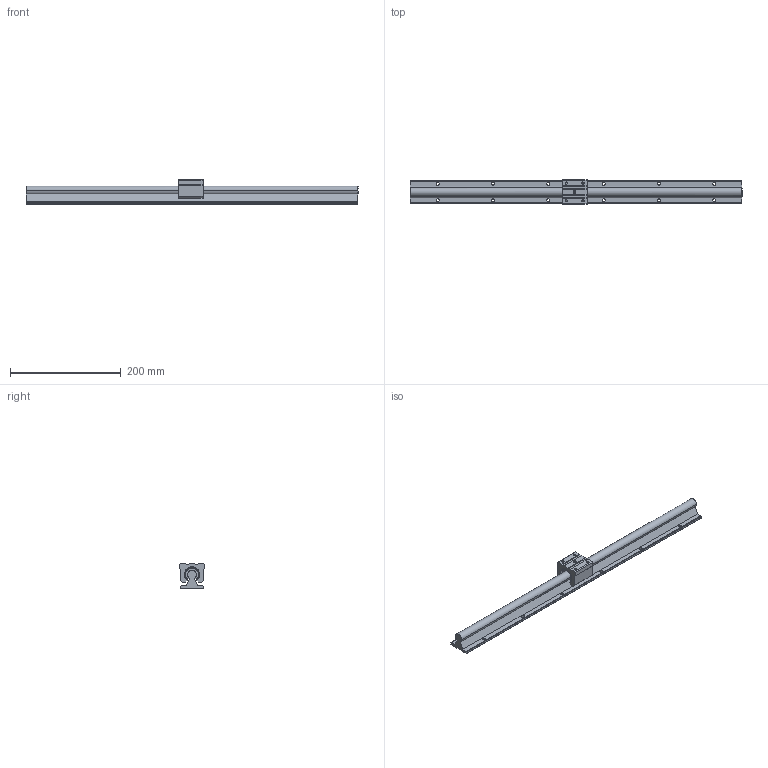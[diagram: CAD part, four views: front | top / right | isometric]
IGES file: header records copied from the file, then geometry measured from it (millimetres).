
Global section: file name: No Iges File Name specified; native system: AutoDesk Inventor R10; preprocessor: AutoDesk Inventor Iges Exporter R10; author: No Author specified; organization: No Organization specified; date: 20101221.091626; units: millimetre
Bounding box: 600 x 45 x 45 mm (x, y, z)
Surface area: 98606.5 mm2 (no closed solid volume)
Topology: 0 solids, 0 shells, 240 faces, 1608 edges, 1586 vertices
Faces by surface type: bspline 240
